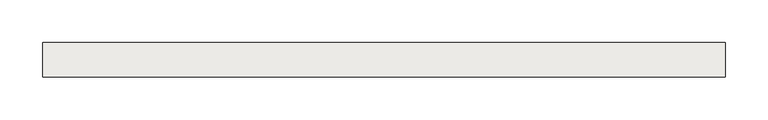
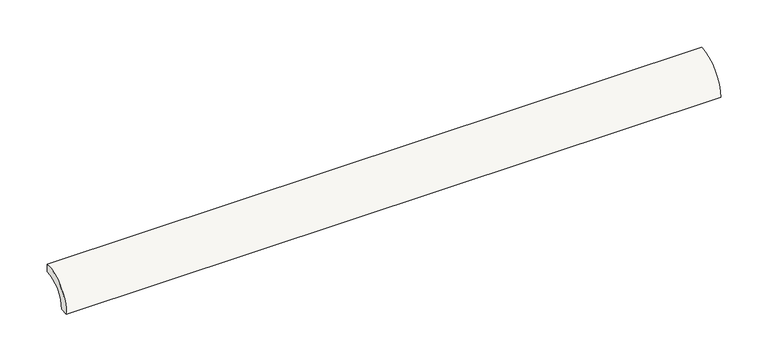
"""IFC4 building model written with IfcOpenShell, lengths in millimetres: slab geometry, ROSA GRES_183 : Pieza 183_Serena_Ocra_Anti-Slip."""

from ifc_helpers import new_model, si_unit, point, frame, frame_2d, origin, origin_2d, place, context, project, spatial, polyline, circle_curve, trimmed, segment, composite_curve, outline, extrude, source, transform, mapped, element, save


def slab_2ceaf25b(model_context):
    return source(origin(), model_context, "Body", "SweptSolid", [
        extrude(outline(composite_curve([segment(polyline([(0.0, 40.0), (0.0, 30.0265886)]), True, "CONTINUOUS"), segment(trimmed(circle_curve(frame_2d((-0.0044453, 0.0044453)), 30.0221435), [point((0.0, 30.0265886))], [point((-30.0265886, 0.0))], True, "CARTESIAN"), True, "CONTINUOUS"), segment(polyline([(-30.0265886, 0.0), (-40.0, 0.0)]), True, "CONTINUOUS"), segment(trimmed(circle_curve(origin_2d(), 40.0), [point((-40.0, 0.0))], [point((0.0, 40.0))], False, "CARTESIAN"), True, "CONTINUOUS")], self_intersect=False)), frame((0.0, 0.0, 0.0), z_axis=(1.0, 0.0, 0.0), x_axis=(0.0, 1.0, 0.0)), (0.0, 0.0, 1.0), 795.0),
    ])


if __name__ == "__main__":
    model = new_model("IFC4")
    model_context = context("Model", 3, world=origin())
    ifc_project = project(units=[si_unit("LENGTHUNIT", "METRE", prefix="MILLI")], contexts=[model_context])
    site = spatial("IfcSite", under=ifc_project)
    building = spatial("IfcBuilding", under=site)
    placement = place(None, origin())
    slab_shape = slab_2ceaf25b(model_context)
    element("IfcSlab", 1, ObjectType="ROSA GRES_183 : Pieza 183_Serena_Ocra_Anti-Slip", at=placement, inside=building, context=model_context, shape_type="MappedRepresentation", body=[
        mapped(slab_shape, transform((0.0, 0.0, 0.0), x_axis=(1.0, 0.0, 0.0), y_axis=(0.0, 1.0, 0.0), z_axis=(0.0, 0.0, 1.0))),
    ])
    save(model, "model.ifc")
